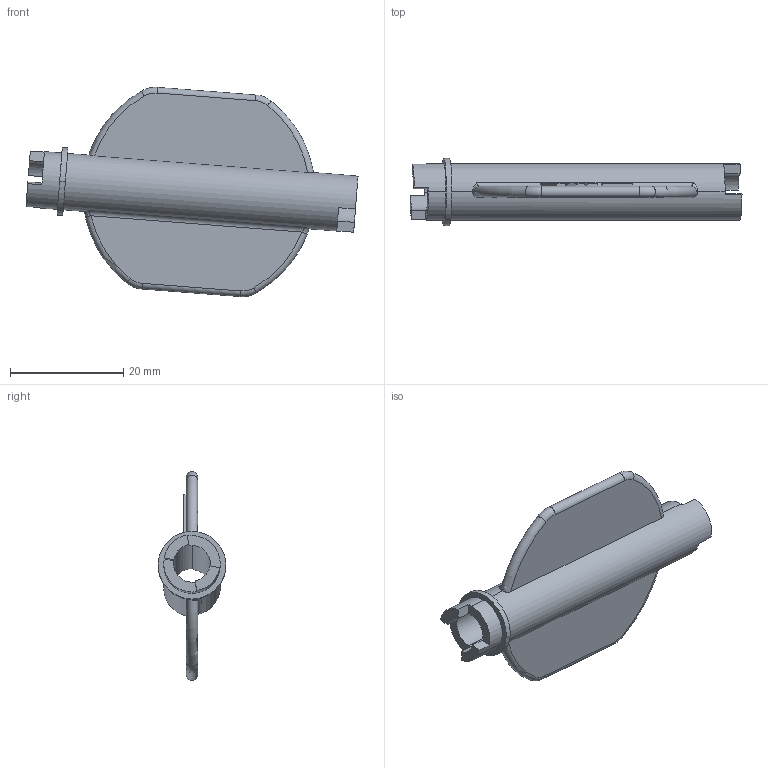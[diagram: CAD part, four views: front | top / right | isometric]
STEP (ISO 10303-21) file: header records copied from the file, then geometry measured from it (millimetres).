
FILE_DESCRIPTION((''),'2;1');
FILE_NAME('0000237125_PRT','2025-11-12T18:33:46',('Wyndorps'),(''),'CREO PARAMETRIC BY PTC INC, 2025010','CREO PARAMETRIC BY PTC INC, 2025010','');
FILE_SCHEMA(('CONFIG_CONTROL_DESIGN'));
Length unit declared in the file: millimetre
Products named in the file (1): 0000237125_PRT
Bounding box: 58.75 x 12 x 37.03 mm (x, y, z)
Volume: 4233.7 mm3; surface area: 4771.9 mm2
Topology: 1 solids, 1 shells, 90 faces, 241 edges, 158 vertices
Faces by surface type: plane 48, cylinder 16, extrusion 14, torus 8, bspline 4
Entity records: 3249 total; most frequent: CARTESIAN_POINT 1003, ORIENTED_EDGE 482, DIRECTION 415, EDGE_CURVE 241, VERTEX_POINT 158, VECTOR 143, AXIS2_PLACEMENT_3D 136, LINE 129
